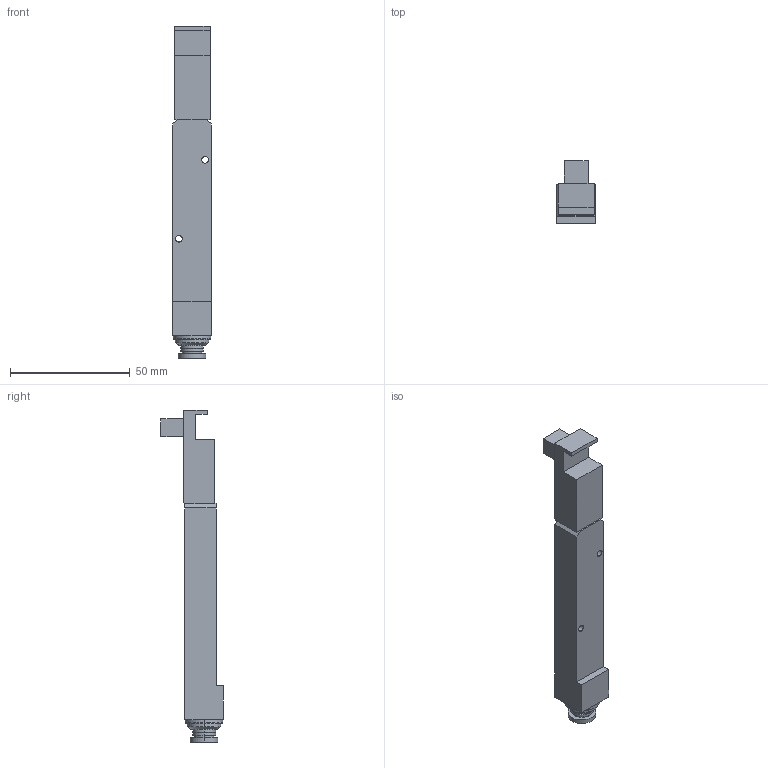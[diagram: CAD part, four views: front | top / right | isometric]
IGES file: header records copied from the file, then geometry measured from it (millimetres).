
Start section: ------------------------------------------------------------------------
Global section: file name: D:\ICADMX\tmp\trans3d_spg\CVICAD02.3912.F15ZX-XPx6_16792.igs; native system: spGate; preprocessor: ver12.6.6; author: Unknown; organization: Unknown; date: 210712.184847; units: millimetre
Bounding box: 16 x 26.1 x 138.9 mm (x, y, z)
Volume: 27099.1 mm3; surface area: 9193.7 mm2
Topology: 1 solids, 1 shells, 60 faces, 141 edges, 90 vertices
Faces by surface type: bspline 60
